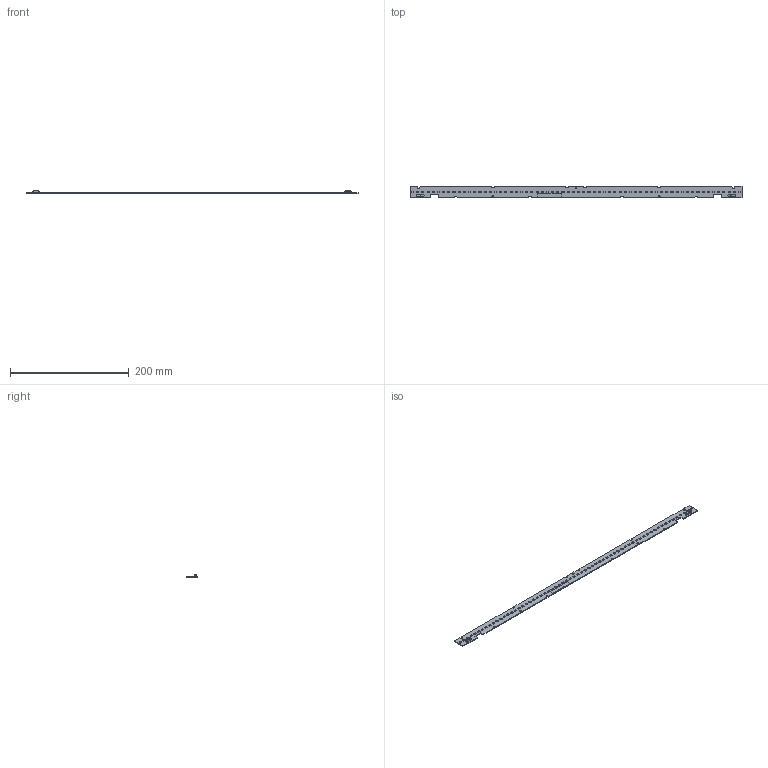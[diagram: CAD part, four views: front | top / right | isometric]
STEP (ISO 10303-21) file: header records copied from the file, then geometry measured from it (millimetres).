
FILE_DESCRIPTION(('Open CASCADE Model'),'2;1');
FILE_NAME('Open CASCADE Shape Model','2025-07-25T09:40:31',('Author'),( 'Open CASCADE'),'Open CASCADE STEP processor 7.5','Open CASCADE 7.5' ,'Unknown');
FILE_SCHEMA(('AUTOMOTIVE_DESIGN { 1 0 10303 214 1 1 1 1 }'));
Length unit declared in the file: millimetre
Products named in the file (74): PCB; Board; Open CASCADE STEP translator 7.5 1.1.1; ET1; 7155566528; Extruded; J2; BJB 46.101.1001; J1; DL63; LUXEON_2835_20160407_STEP_RGB60909; DL62; DL61; DL60; DL59; DL58; DL57; DL56; DL55; DL54; DL53; DL52; DL51; DL50; DL49; DL48; DL47; DL46; DL45; DL44; DL43; DL42; DL41; DL40; DL39; DL38; DL37; DL36; DL35; DL34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
Assembly tree (137 placements, depth 4):
  PCB
    Board
      Open CASCADE STEP translator 7.5 1.1.1
    ET1
      7155566528
        Extruded
    J2
      BJB 46.101.1001
    J1
      BJB 46.101.1001
    DL63
      LUXEON_2835_20160407_STEP_RGB60909
    DL62
      LUXEON_2835_20160407_STEP_RGB60909
    DL61
      LUXEON_2835_20160407_STEP_RGB60909
    DL60
      LUXEON_2835_20160407_STEP_RGB60909
    DL59
      LUXEON_2835_20160407_STEP_RGB60909
    DL58
      LUXEON_2835_20160407_STEP_RGB60909
    DL57
      LUXEON_2835_20160407_STEP_RGB60909
    DL56
      LUXEON_2835_20160407_STEP_RGB60909
    DL55
      LUXEON_2835_20160407_STEP_RGB60909
    DL54
      LUXEON_2835_20160407_STEP_RGB60909
    DL53
      LUXEON_2835_20160407_STEP_RGB60909
    DL52
      LUXEON_2835_20160407_STEP_RGB60909
    DL51
      LUXEON_2835_20160407_STEP_RGB60909
    DL50
      LUXEON_2835_20160407_STEP_RGB60909
    DL49
      LUXEON_2835_20160407_STEP_RGB60909
    DL48
      LUXEON_2835_20160407_STEP_RGB60909
    DL47
      LUXEON_2835_20160407_STEP_RGB60909
    DL46
      LUXEON_2835_20160407_STEP_RGB60909
    DL45
      LUXEON_2835_20160407_STEP_RGB60909
    DL44
      LUXEON_2835_20160407_STEP_RGB60909
    DL43
      LUXEON_2835_20160407_STEP_RGB60909
    DL42
      LUXEON_2835_20160407_STEP_RGB60909
    DL41
      LUXEON_2835_20160407_STEP_RGB60909
    DL40
      LUXEON_2835_20160407_STEP_RGB60909
    DL39
      LUXEON_2835_20160407_STEP_RGB60909
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Bounding box: 559.6 x 20 x 5.49 mm (x, y, z)
Volume: 17751.9 mm3; surface area: 26515.3 mm2
Topology: 68 solids, 68 shells, 8556 faces, 23750 edges, 15612 vertices
Faces by surface type: plane 5819, cylinder 2609, bspline 128
Full cylindrical faces by diameter (mm): 3.2 x3
Entity records: 33811 total; most frequent: CARTESIAN_POINT 7616, ORIENTED_EDGE 4816, DIRECTION 4587, EDGE_CURVE 2408, LINE 1913, VECTOR 1913, VERTEX_POINT 1598, AXIS2_PLACEMENT_3D 1337
